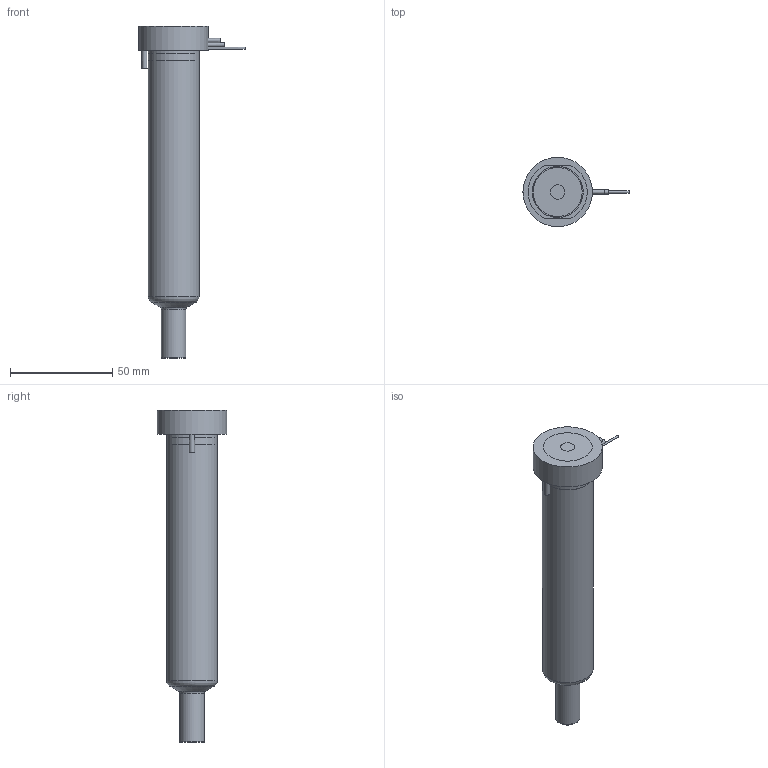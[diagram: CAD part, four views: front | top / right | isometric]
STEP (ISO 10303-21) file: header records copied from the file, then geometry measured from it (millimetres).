
FILE_DESCRIPTION(/* description */ (''),/* implementation_level */ '2;1');
FILE_NAME(/* name */ 'MXYCN16130P4U_200C_a',/* time_stamp */ '2016-02-29T10:59:12+13:00',/* author */ (''),/* organization */ (''),/* preprocessor_version */ 'ST-DEVELOPER v9',/* originating_system */ 'UGS - NX 4.0',/* authorisation */ '');
FILE_SCHEMA (('CONFIG_CONTROL_DESIGN'));
Length unit declared in the file: millimetre
Products named in the file (1): mattB1369y4d
Bounding box: 51.95 x 34 x 162.62 mm (x, y, z)
Volume: 125482.9 mm3; surface area: 26313.8 mm2
Topology: 2 solids, 2 shells, 71 faces, 156 edges, 102 vertices
Faces by surface type: plane 31, cylinder 26, torus 7, cone 5, bspline 1, sphere 1
Full cylindrical faces by diameter (mm): 1 x2, 1.5 x1, 2 x2, 2.5 x1, 5 x1, 7 x1, 11.61 x1, 11.995 x2, 14.8 x1, 20.8 x1, 24.9 x1, 25 x2, 34 x1
Entity records: 2121 total; most frequent: CARTESIAN_POINT 614, DIRECTION 314, ORIENTED_EDGE 234, AXIS2_PLACEMENT_3D 141, EDGE_CURVE 117, EDGE_LOOP 114, VERTEX_POINT 91, ADVANCED_FACE 71
